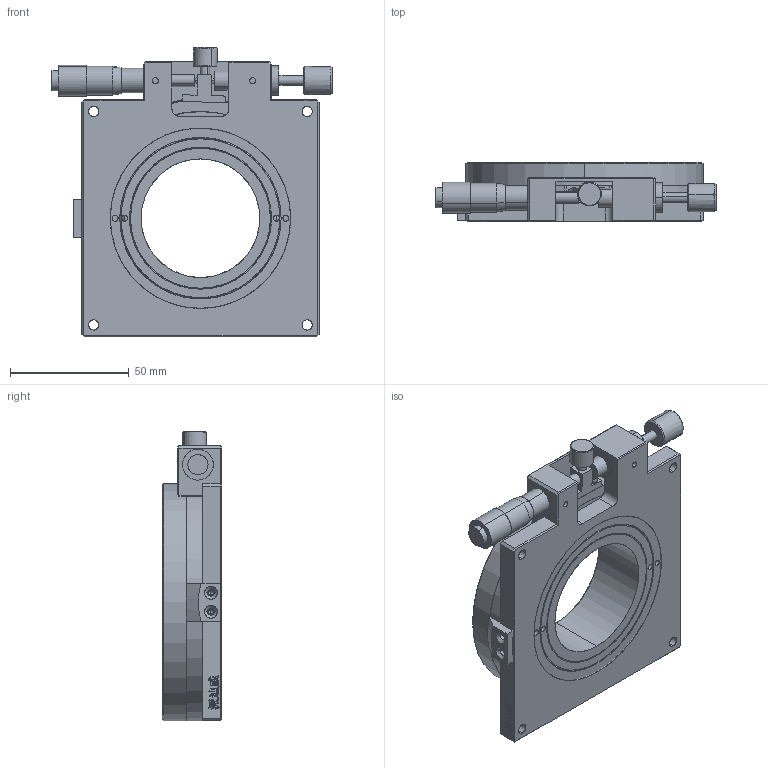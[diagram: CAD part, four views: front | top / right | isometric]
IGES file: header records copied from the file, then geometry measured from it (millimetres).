
Start section: SolidWorks IGES file using analytic representation for surfaces
Global section: file name: C:\Users\dubin\Desktop\0507\PT-SR100（根据三维和样本所画）\PT-SR100(1)\PT-SR100.IGS; native system: SolidWorks 2017; preprocessor: SolidWorks 2017; author: PDV; date: 230507.162255; units: millimetre
Bounding box: 118.07 x 25 x 122.11 mm (x, y, z)
Surface area: 75092.1 mm2 (no closed solid volume)
Topology: 0 solids, 0 shells, 526 faces, 9601 edges, 9577 vertices
Faces by surface type: bspline 314, revolution 212
